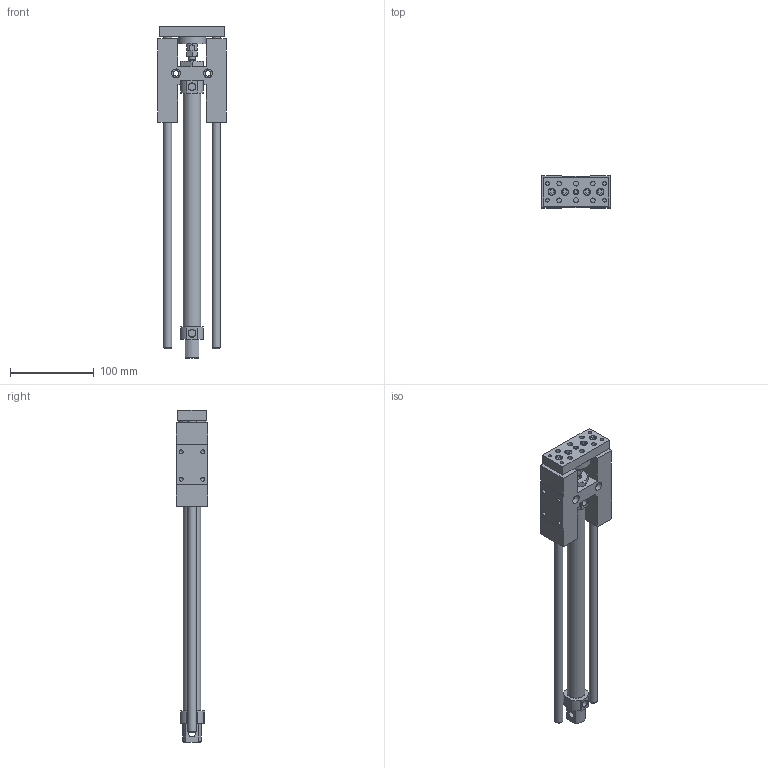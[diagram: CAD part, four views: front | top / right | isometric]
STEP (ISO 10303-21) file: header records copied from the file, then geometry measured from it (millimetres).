
FILE_DESCRIPTION((''),'2;1');
FILE_NAME('I:\3D電子目錄\氣缸\GHB(U)\GHB(U)\GHB(U)20\GHB(U)20x250.stp','2007-10-22T16:15:16',('Administrator'),(''),'Autodesk Inventor 11','Autodesk Inventor 11','');
FILE_SCHEMA(('AUTOMOTIVE_DESIGN { 1 0 10303 214 1 1 1 1 }'));
Length unit declared in the file: millimetre
Products named in the file (1): GHB(U)20
Bounding box: 82 x 38 x 396 mm (x, y, z)
Volume: 407547.9 mm3; surface area: 88436 mm2
Topology: 1 solids, 1 shells, 241 faces, 563 edges, 363 vertices
Faces by surface type: plane 132, bspline 40, cylinder 38, cone 31
Full cylindrical faces by diameter (mm): 4.917 x4, 5 x1, 6 x3, 6.6 x1, 7.5 x4, 8 x3, 8.5 x6, 10 x2, 13 x2, 21.2 x1, 33 x1
Entity records: 6788 total; most frequent: CARTESIAN_POINT 1686, DIRECTION 1006, ORIENTED_EDGE 964, EDGE_CURVE 482, EDGE_LOOP 372, AXIS2_PLACEMENT_3D 366, VERTEX_POINT 348, VECTOR 274
